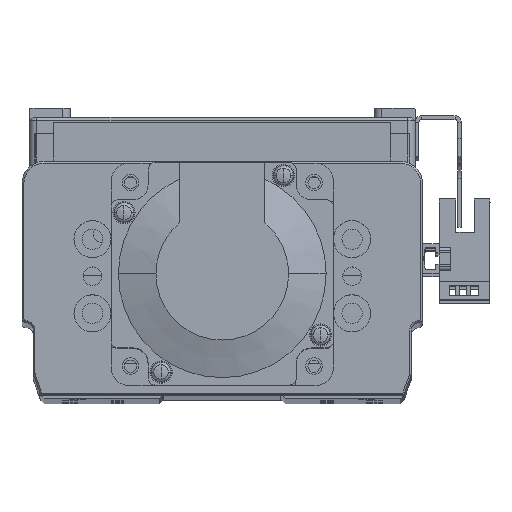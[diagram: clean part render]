
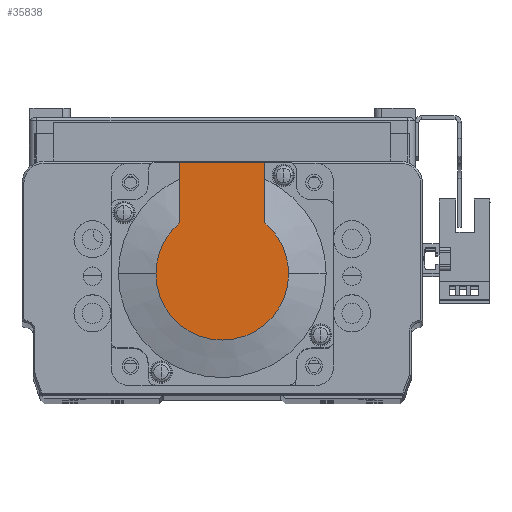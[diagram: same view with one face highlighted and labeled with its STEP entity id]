
A CAD part, top view. The second image highlights one B-rep face of the part: STEP entity #35838.
In plain terms, the highlighted planar face has unit normal (0, 0, 1) as drawn and (-1, 0, 0) by its records, which use the part's own axes.
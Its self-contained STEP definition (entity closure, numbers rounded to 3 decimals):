
#10 = CARTESIAN_POINT ( 'NONE',  ( -99., 30., -11.45 ) ) ;
#124 = CARTESIAN_POINT ( 'NONE',  ( -99., 30., 11.45 ) ) ;
#1531 = VERTEX_POINT ( 'NONE', #39446 ) ;
#1595 = VERTEX_POINT ( 'NONE', #39537 ) ;
#1621 = VERTEX_POINT ( 'NONE', #39545 ) ;
#1779 = VERTEX_POINT ( 'NONE', #38880 ) ;
#1867 = VERTEX_POINT ( 'NONE', #10 ) ;
#1955 = VERTEX_POINT ( 'NONE', #124 ) ;
#3460 = DIRECTION ( 'NONE',  ( 0., 0., -1. ) ) ;
#3462 = CARTESIAN_POINT ( 'NONE',  ( -99., 0., 0. ) ) ;
#3469 = DIRECTION ( 'NONE',  ( -1., 0., 0. ) ) ;
#3562 = CARTESIAN_POINT ( 'NONE',  ( -99., 0., 11.45 ) ) ;
#3571 = CARTESIAN_POINT ( 'NONE',  ( -99., 30., 25. ) ) ;
#3582 = DIRECTION ( 'NONE',  ( 0., 0., 1. ) ) ;
#3587 = DIRECTION ( 'NONE',  ( 0., -1., 0. ) ) ;
#3604 = DIRECTION ( 'NONE',  ( 0., -1., 0. ) ) ;
#3609 = CARTESIAN_POINT ( 'NONE',  ( -99., -8.941, -11.45 ) ) ;
#6226 = CIRCLE ( 'NONE', #9456, 17.881 ) ;
#6279 = VECTOR ( 'NONE', #3587, 1000. ) ;
#6282 = LINE ( 'NONE', #3562, #6279 ) ;
#6291 = LINE ( 'NONE', #3609, #6298 ) ;
#6298 = VECTOR ( 'NONE', #3604, 1000. ) ;
#6313 = LINE ( 'NONE', #3571, #6314 ) ;
#6314 = VECTOR ( 'NONE', #3582, 1000. ) ;
#6554 = FACE_OUTER_BOUND ( 'NONE', #23468, .T. ) ;
#9456 = AXIS2_PLACEMENT_3D ( 'NONE', #3462, #3469, #3460 ) ;
#9616 = AXIS2_PLACEMENT_3D ( 'NONE', #42991, #42873, #42904 ) ;
#17061 = EDGE_CURVE ( 'NONE', #1779, #1621, #6226, .T. ) ;
#17104 = EDGE_CURVE ( 'NONE', #1867, #1955, #6313, .T. ) ;
#17106 = EDGE_CURVE ( 'NONE', #1955, #1595, #6282, .T. ) ;
#17120 = EDGE_CURVE ( 'NONE', #1867, #1779, #6291, .T. ) ;
#18933 = AXIS2_PLACEMENT_3D ( 'NONE', #26442, #26459, #26454 ) ;
#18961 = AXIS2_PLACEMENT_3D ( 'NONE', #26478, #26470, #26496 ) ;
#23468 = EDGE_LOOP ( 'NONE', ( #56942, #56941, #56898, #56973, #56974, #56899 ) ) ;
#26442 = CARTESIAN_POINT ( 'NONE',  ( -99., 0., 0. ) ) ;
#26454 = DIRECTION ( 'NONE',  ( 0., 0., -1. ) ) ;
#26459 = DIRECTION ( 'NONE',  ( -1., 0., 0. ) ) ;
#26470 = DIRECTION ( 'NONE',  ( -1., 0., 0. ) ) ;
#26478 = CARTESIAN_POINT ( 'NONE',  ( -99., 0., 0. ) ) ;
#26496 = DIRECTION ( 'NONE',  ( 0., 0., -1. ) ) ;
#35838 = ADVANCED_FACE ( 'NONE', ( #6554 ), #42969, .T. ) ;
#38880 = CARTESIAN_POINT ( 'NONE',  ( -99., 13.735, -11.45 ) ) ;
#39446 = CARTESIAN_POINT ( 'NONE',  ( -99., 0., 17.881 ) ) ;
#39537 = CARTESIAN_POINT ( 'NONE',  ( -99., 13.735, 11.45 ) ) ;
#39545 = CARTESIAN_POINT ( 'NONE',  ( -99., 0., -17.881 ) ) ;
#42720 = EDGE_CURVE ( 'NONE', #1531, #1595, #46811, .T. ) ;
#42754 = EDGE_CURVE ( 'NONE', #1621, #1531, #46849, .T. ) ;
#42873 = DIRECTION ( 'NONE',  ( -1., 0., 0. ) ) ;
#42904 = DIRECTION ( 'NONE',  ( 0., 0., 1. ) ) ;
#42969 = PLANE ( 'NONE',  #9616 ) ;
#42991 = CARTESIAN_POINT ( 'NONE',  ( -99., -8.941, 0. ) ) ;
#46811 = CIRCLE ( 'NONE', #18933, 17.881 ) ;
#46849 = CIRCLE ( 'NONE', #18961, 17.881 ) ;
#56898 = ORIENTED_EDGE ( 'NONE', *, *, #42754, .T. ) ;
#56899 = ORIENTED_EDGE ( 'NONE', *, *, #17104, .F. ) ;
#56941 = ORIENTED_EDGE ( 'NONE', *, *, #17061, .T. ) ;
#56942 = ORIENTED_EDGE ( 'NONE', *, *, #17120, .T. ) ;
#56973 = ORIENTED_EDGE ( 'NONE', *, *, #42720, .T. ) ;
#56974 = ORIENTED_EDGE ( 'NONE', *, *, #17106, .F. ) ;
